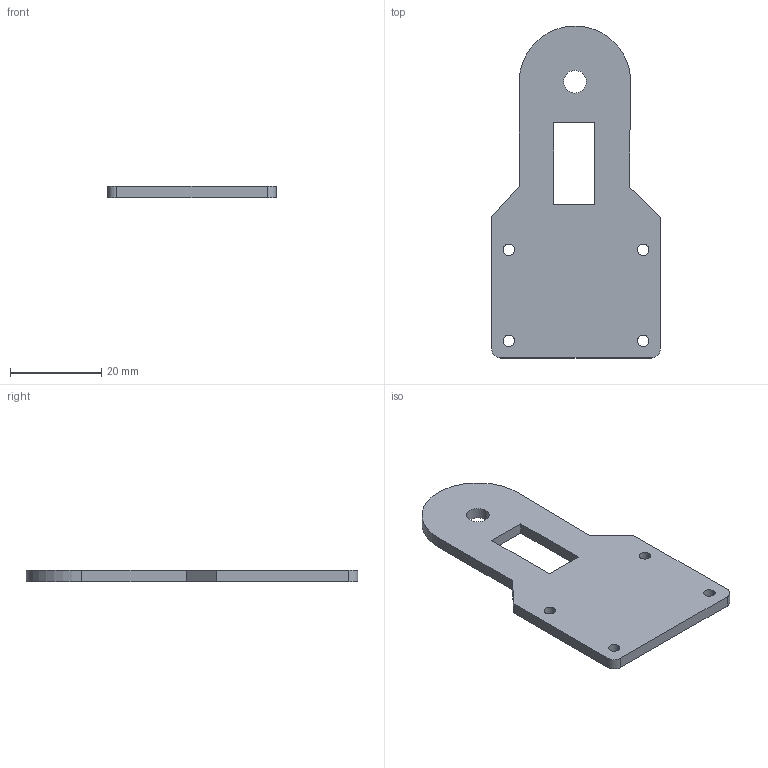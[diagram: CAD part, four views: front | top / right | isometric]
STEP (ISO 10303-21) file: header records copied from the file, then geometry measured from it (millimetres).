
FILE_DESCRIPTION (( 'STEP AP203' ), '1' );
FILE_NAME ('Gimbal Bearing (roll) Plate v1.STEP', '2016-10-20T20:48:46', ( 'drhyoo' ), ( '' ), 'SwSTEP 2.0', 'SolidWorks 2016', '' );
FILE_SCHEMA (( 'CONFIG_CONTROL_DESIGN' ));
Length unit declared in the file: millimetre
Products named in the file (1): Gimbal Bearing (roll) Plate v1
Bounding box: 37 x 72.82 x 2.5 mm (x, y, z)
Volume: 4851.4 mm3; surface area: 4633.4 mm2
Topology: 1 solids, 1 shells, 26 faces, 72 edges, 48 vertices
Faces by surface type: cylinder 13, plane 13
Entity records: 943 total; most frequent: DIRECTION 152, CARTESIAN_POINT 147, ORIENTED_EDGE 144, EDGE_CURVE 72, AXIS2_PLACEMENT_3D 53, VERTEX_POINT 48, LINE 46, VECTOR 46
